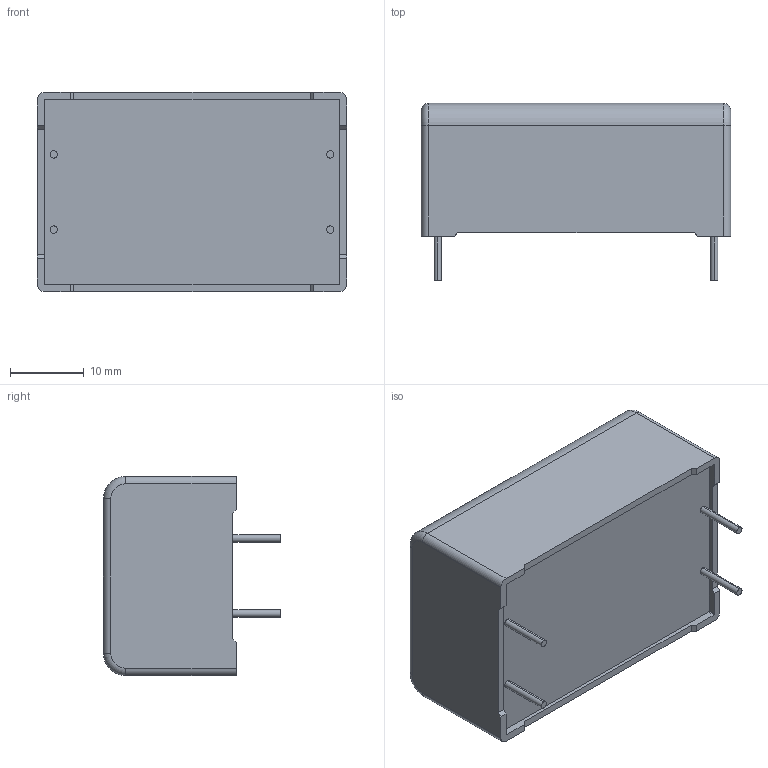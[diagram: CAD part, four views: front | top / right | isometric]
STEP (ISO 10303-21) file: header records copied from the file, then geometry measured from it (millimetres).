
FILE_DESCRIPTION (( 'STEP AP203' ), '1' );
FILE_NAME ('DC_Link_27x18x42_4pins10.2.step', '2017-04-03T16:00:02', ( 'work' ), ( 'Hewlett-Packard Company' ), 'SwSTEP 2.0', 'SolidWorks 2017', '' );
FILE_SCHEMA (( 'CONFIG_CONTROL_DESIGN' ));
Length unit declared in the file: millimetre
Products named in the file (1): DC_Link_27x18x42_4pins10.2
Bounding box: 42 x 24 x 27 mm (x, y, z)
Volume: 19196.1 mm3; surface area: 4702.5 mm2
Topology: 1 solids, 1 shells, 122 faces, 319 edges, 210 vertices
Faces by surface type: plane 82, cylinder 20, bspline 16, torus 4
Entity records: 4492 total; most frequent: CARTESIAN_POINT 1476, ORIENTED_EDGE 638, DIRECTION 545, EDGE_CURVE 319, LINE 243, VECTOR 243, VERTEX_POINT 210, AXIS2_PLACEMENT_3D 151
